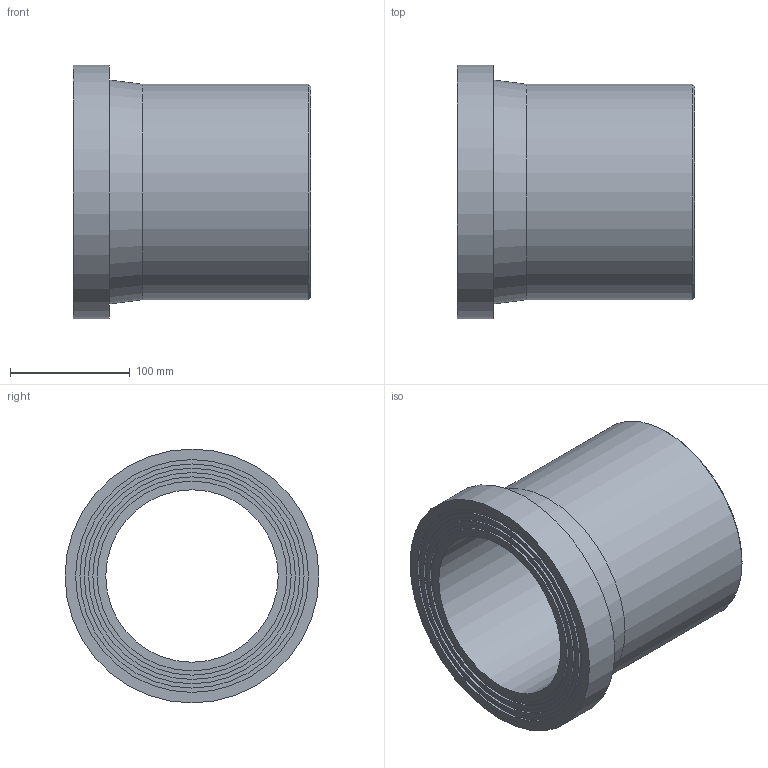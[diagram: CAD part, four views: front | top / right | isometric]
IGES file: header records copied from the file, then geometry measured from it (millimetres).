
Global section: file name: 490207180.ipt; native system: Autodesk Inventor 2015; preprocessor: unknown; author: Кирилл,,11,0; organization: 20170718.095537; date: 20190331.185823; units: millimetre
Bounding box: 198 x 212 x 212 mm (x, y, z)
Volume: 2125801 mm3; surface area: 246381.7 mm2
Topology: 1 solids, 1 shells, 20 faces, 33 edges, 22 vertices
Faces by surface type: plane 9, cylinder 5, revolution 4, cone 2
Full cylindrical faces by diameter (mm): 158.4 x1, 172.8 x1, 180 x1, 187.2 x1, 212 x1
